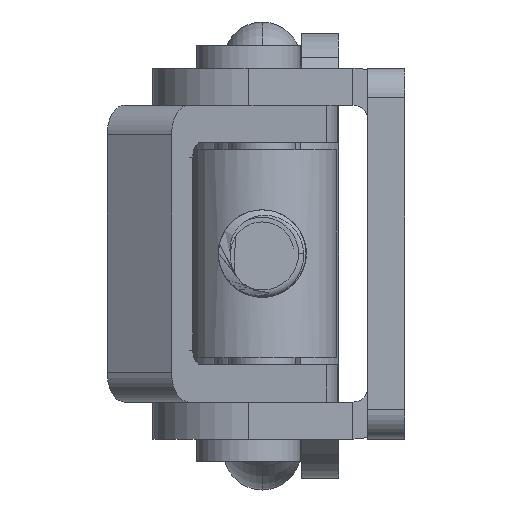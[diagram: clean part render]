
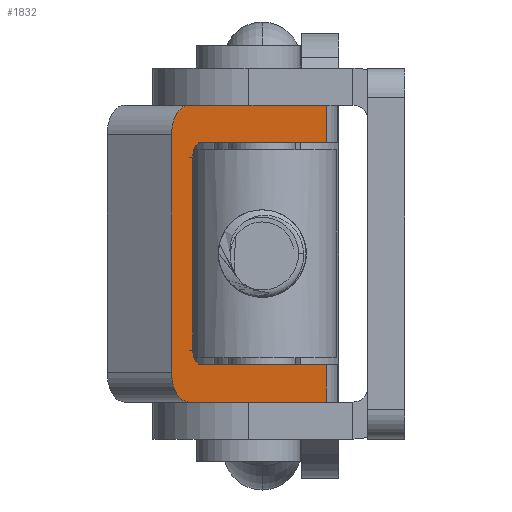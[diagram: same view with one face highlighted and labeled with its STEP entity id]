
A CAD part, left-side view. The second image highlights one B-rep face of the part: STEP entity #1832.
In plain terms, the highlighted planar face has unit normal (-0.574, -0.819, 0) as drawn and (0.574, -0.819, 0) by its records, which use the part's own axes.
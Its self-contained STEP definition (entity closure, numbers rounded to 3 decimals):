
#310 = PLANE ( 'NONE',  #2227 ) ;
#472 = CARTESIAN_POINT ( 'NONE',  ( 52.097, 0.723, -17.5 ) ) ;
#501 = ORIENTED_EDGE ( 'NONE', *, *, #9727, .T. ) ;
#523 = VERTEX_POINT ( 'NONE', #472 ) ;
#595 = CARTESIAN_POINT ( 'NONE',  ( 52.097, 0.723, -20. ) ) ;
#722 = DIRECTION ( 'NONE',  ( 0., 0., 1. ) ) ;
#915 = DIRECTION ( 'NONE',  ( -0.574, 0.819, 0. ) ) ;
#994 = VECTOR ( 'NONE', #5078, 1000. ) ;
#1127 = CIRCLE ( 'NONE', #8743, 1. ) ;
#1205 = VECTOR ( 'NONE', #1536, 1000. ) ;
#1259 = VECTOR ( 'NONE', #1732, 1000. ) ;
#1270 = LINE ( 'NONE', #1293, #1205 ) ;
#1293 = CARTESIAN_POINT ( 'NONE',  ( 64.952, 9.725, 0. ) ) ;
#1305 = LINE ( 'NONE', #2033, #1259 ) ;
#1338 = CARTESIAN_POINT ( 'NONE',  ( 65.362, 10.011, 0. ) ) ;
#1536 = DIRECTION ( 'NONE',  ( 0., 0., 1. ) ) ;
#1623 = LINE ( 'NONE', #11687, #1919 ) ;
#1651 = VERTEX_POINT ( 'NONE', #11931 ) ;
#1716 = VERTEX_POINT ( 'NONE', #10115 ) ;
#1732 = DIRECTION ( 'NONE',  ( 0.819, 0.574, 0. ) ) ;
#1832 = ADVANCED_FACE ( 'NONE', ( #3781 ), #310, .T. ) ;
#1919 = VECTOR ( 'NONE', #5089, 1000. ) ;
#2033 = CARTESIAN_POINT ( 'NONE',  ( 16.8, -23.992, -17.5 ) ) ;
#2227 = AXIS2_PLACEMENT_3D ( 'NONE', #10573, #6753, #7896 ) ;
#2288 = CARTESIAN_POINT ( 'NONE',  ( 52.097, 0.723, -20. ) ) ;
#2580 = EDGE_CURVE ( 'NONE', #9898, #7761, #3473, .T. ) ;
#2909 = LINE ( 'NONE', #3426, #9956 ) ;
#3134 = CARTESIAN_POINT ( 'NONE',  ( 16.8, -23.992, -20. ) ) ;
#3387 = LINE ( 'NONE', #3134, #994 ) ;
#3426 = CARTESIAN_POINT ( 'NONE',  ( 67., 11.158, -20. ) ) ;
#3473 = LINE ( 'NONE', #9831, #3475 ) ;
#3475 = VECTOR ( 'NONE', #4785, 1000. ) ;
#3674 = CARTESIAN_POINT ( 'NONE',  ( 65.362, 10.011, -18. ) ) ;
#3732 = ORIENTED_EDGE ( 'NONE', *, *, #4200, .F. ) ;
#3781 = FACE_OUTER_BOUND ( 'NONE', #9741, .T. ) ;
#3879 = CARTESIAN_POINT ( 'NONE',  ( 67., 11.158, -2. ) ) ;
#4158 = VECTOR ( 'NONE', #7971, 1000. ) ;
#4200 = EDGE_CURVE ( 'NONE', #523, #7804, #1305, .T. ) ;
#4255 = EDGE_CURVE ( 'NONE', #1651, #7069, #1270, .T. ) ;
#4585 = CARTESIAN_POINT ( 'NONE',  ( 64.133, 9.151, -17.5 ) ) ;
#4640 = DIRECTION ( 'NONE',  ( 0.819, 0.574, 0. ) ) ;
#4686 = DIRECTION ( 'NONE',  ( -0.574, 0.819, 0. ) ) ;
#4718 = DIRECTION ( 'NONE',  ( 0.574, -0.819, 0. ) ) ;
#4785 = DIRECTION ( 'NONE',  ( -0.819, -0.574, 0. ) ) ;
#5078 = DIRECTION ( 'NONE',  ( 0.819, 0.574, 0. ) ) ;
#5089 = DIRECTION ( 'NONE',  ( 0., 0., 1. ) ) ;
#5809 = LINE ( 'NONE', #11847, #10608 ) ;
#5907 = CARTESIAN_POINT ( 'NONE',  ( 64.133, 9.151, -2.5 ) ) ;
#6492 = CARTESIAN_POINT ( 'NONE',  ( 64.133, 9.151, -16.5 ) ) ;
#6661 = CIRCLE ( 'NONE', #8896, 2. ) ;
#6753 = DIRECTION ( 'NONE',  ( 0.574, -0.819, 0. ) ) ;
#6836 = AXIS2_PLACEMENT_3D ( 'NONE', #3674, #10371, #4640 ) ;
#7052 = ORIENTED_EDGE ( 'NONE', *, *, #11902, .T. ) ;
#7069 = VERTEX_POINT ( 'NONE', #11679 ) ;
#7228 = ORIENTED_EDGE ( 'NONE', *, *, #4255, .F. ) ;
#7352 = CARTESIAN_POINT ( 'NONE',  ( 52.097, 0.723, -2.5 ) ) ;
#7428 = ORIENTED_EDGE ( 'NONE', *, *, #10779, .T. ) ;
#7461 = DIRECTION ( 'NONE',  ( 0.819, 0.574, 0. ) ) ;
#7761 = VERTEX_POINT ( 'NONE', #7352 ) ;
#7804 = VERTEX_POINT ( 'NONE', #4585 ) ;
#7807 = AXIS2_PLACEMENT_3D ( 'NONE', #6492, #915, #7461 ) ;
#7896 = DIRECTION ( 'NONE',  ( 0.819, 0.574, 0. ) ) ;
#7906 = ORIENTED_EDGE ( 'NONE', *, *, #8222, .F. ) ;
#7951 = VERTEX_POINT ( 'NONE', #3879 ) ;
#7971 = DIRECTION ( 'NONE',  ( 0., 0., 1. ) ) ;
#7996 = VERTEX_POINT ( 'NONE', #10661 ) ;
#7997 = ORIENTED_EDGE ( 'NONE', *, *, #2580, .F. ) ;
#8117 = EDGE_CURVE ( 'NONE', #7761, #7996, #9232, .T. ) ;
#8121 = DIRECTION ( 'NONE',  ( 0.819, 0.574, 0. ) ) ;
#8222 = EDGE_CURVE ( 'NONE', #7996, #10024, #5809, .T. ) ;
#8495 = EDGE_CURVE ( 'NONE', #10233, #10882, #3387, .T. ) ;
#8563 = ORIENTED_EDGE ( 'NONE', *, *, #11588, .F. ) ;
#8613 = CIRCLE ( 'NONE', #6836, 2. ) ;
#8736 = ORIENTED_EDGE ( 'NONE', *, *, #9671, .T. ) ;
#8743 = AXIS2_PLACEMENT_3D ( 'NONE', #10417, #4686, #11317 ) ;
#8896 = AXIS2_PLACEMENT_3D ( 'NONE', #10451, #4718, #11345 ) ;
#9232 = LINE ( 'NONE', #2288, #4158 ) ;
#9546 = CARTESIAN_POINT ( 'NONE',  ( 65.362, 10.011, -20. ) ) ;
#9671 = EDGE_CURVE ( 'NONE', #10882, #1716, #8613, .T. ) ;
#9727 = EDGE_CURVE ( 'NONE', #9898, #7069, #1127, .T. ) ;
#9741 = EDGE_LOOP ( 'NONE', ( #7052, #7428, #7906, #10396, #7997, #501, #7228, #11828, #3732, #8563, #10975, #8736 ) ) ;
#9831 = CARTESIAN_POINT ( 'NONE',  ( 16.8, -23.992, -2.5 ) ) ;
#9898 = VERTEX_POINT ( 'NONE', #5907 ) ;
#9956 = VECTOR ( 'NONE', #722, 1000. ) ;
#10024 = VERTEX_POINT ( 'NONE', #1338 ) ;
#10115 = CARTESIAN_POINT ( 'NONE',  ( 67., 11.158, -18. ) ) ;
#10233 = VERTEX_POINT ( 'NONE', #595 ) ;
#10371 = DIRECTION ( 'NONE',  ( 0.574, -0.819, 0. ) ) ;
#10396 = ORIENTED_EDGE ( 'NONE', *, *, #8117, .F. ) ;
#10403 = CIRCLE ( 'NONE', #7807, 1. ) ;
#10417 = CARTESIAN_POINT ( 'NONE',  ( 64.133, 9.151, -3.5 ) ) ;
#10451 = CARTESIAN_POINT ( 'NONE',  ( 65.362, 10.011, -2. ) ) ;
#10573 = CARTESIAN_POINT ( 'NONE',  ( 16.8, -23.992, -20. ) ) ;
#10608 = VECTOR ( 'NONE', #8121, 1000. ) ;
#10661 = CARTESIAN_POINT ( 'NONE',  ( 52.097, 0.723, 0. ) ) ;
#10779 = EDGE_CURVE ( 'NONE', #7951, #10024, #6661, .T. ) ;
#10882 = VERTEX_POINT ( 'NONE', #9546 ) ;
#10975 = ORIENTED_EDGE ( 'NONE', *, *, #8495, .T. ) ;
#11317 = DIRECTION ( 'NONE',  ( 0.819, 0.574, 0. ) ) ;
#11345 = DIRECTION ( 'NONE',  ( 0.819, 0.574, 0. ) ) ;
#11428 = EDGE_CURVE ( 'NONE', #1651, #7804, #10403, .T. ) ;
#11588 = EDGE_CURVE ( 'NONE', #10233, #523, #1623, .T. ) ;
#11679 = CARTESIAN_POINT ( 'NONE',  ( 64.952, 9.725, -3.5 ) ) ;
#11687 = CARTESIAN_POINT ( 'NONE',  ( 52.097, 0.723, -20. ) ) ;
#11828 = ORIENTED_EDGE ( 'NONE', *, *, #11428, .T. ) ;
#11847 = CARTESIAN_POINT ( 'NONE',  ( 16.8, -23.992, 0. ) ) ;
#11902 = EDGE_CURVE ( 'NONE', #1716, #7951, #2909, .T. ) ;
#11931 = CARTESIAN_POINT ( 'NONE',  ( 64.952, 9.725, -16.5 ) ) ;
